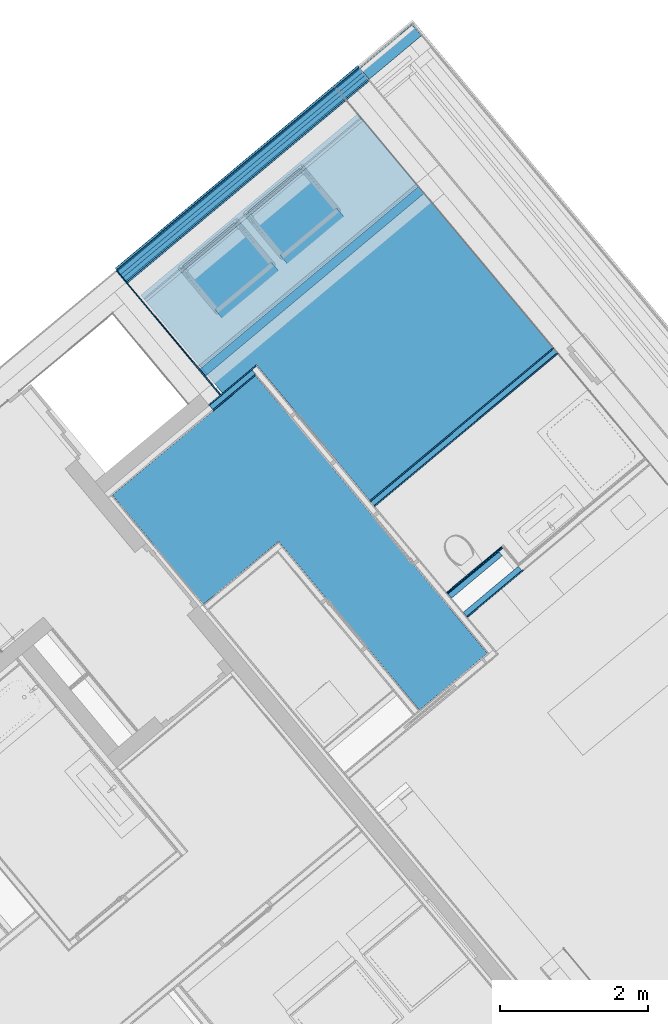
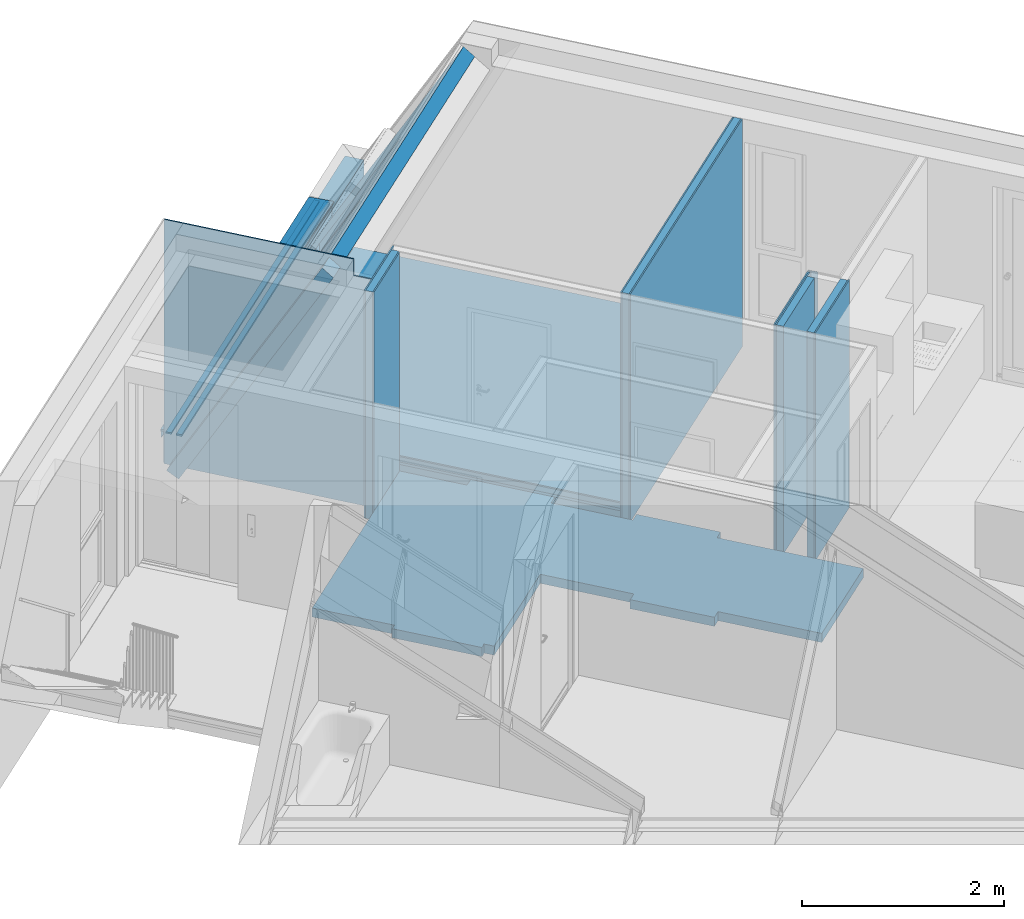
# One storey, part 37 of 61: 26 building element parts, 2 openings, 10 elements without a shape of their own.
"""IFC4 building model written with IfcOpenShell, lengths in metres."""

import ifcopenshell
import ifcopenshell.guid

model = None  # the IFC model being written
_history = None  # IfcOwnerHistory: only IFC2X3 demands one
_inside = {}  # id of a spatial element -> (the spatial element, [elements in it])
_under = {}  # id of a project, library or spatial element -> (it, [spatial elements below it])
_declared = {}  # id of a project -> (the project, [libraries it declares])
_typed = {}  # id of a type object -> (the type object, [elements of that type])
_made_of = {}  # id of a material, layer set ... -> (it, [elements and type objects made of it])


def new_model(schema):
    """Start an empty IFC model of exactly this schema.

    Asked for "IFC4X3", IfcOpenShell would pick the latest addendum, in which some entities
    have other attributes; the version numbers below select the first issue.
    IFC2X3 requires an IfcOwnerHistory on every rooted entity: one is made here for all.
    """
    global model, _history
    if schema == "IFC4X3":
        model = ifcopenshell.file(schema_version=(4, 3, 0, 0))
    else:
        model = ifcopenshell.file(schema=schema)
    _inside.clear()
    _under.clear()
    _declared.clear()
    _typed.clear()
    _made_of.clear()
    _history = None
    if model.schema == "IFC2X3":
        org = make("IfcOrganization", Name="unknown")
        user = make(
            "IfcPersonAndOrganization",
            ThePerson=make("IfcPerson", FamilyName="unknown"),
            TheOrganization=org,
        )
        app = make(
            "IfcApplication",
            ApplicationDeveloper=org,
            Version="unknown",
            ApplicationFullName="unknown",
            ApplicationIdentifier="unknown",
        )
        _history = make(
            "IfcOwnerHistory",
            OwningUser=user,
            OwningApplication=app,
            ChangeAction="ADDED",
            CreationDate=0,
        )
    return model


def make(cls, **values):
    """One entity of the class cls with the attributes given. An attribute that is None is left unset."""
    return model.create_entity(
        cls, **{name: value for name, value in values.items() if value is not None}
    )


def entity(cls, *values):
    """Any entity or typed value of the class cls, its attributes in the order of the schema. None: left unset."""
    e = model.create_entity(cls)
    for i, value in enumerate(values):
        if value is not None:
            e[i] = value
    return e


def rooted(cls, **values):
    """An entity with a GlobalId (a new one), such as an element, a storey or a relation."""
    return make(cls, GlobalId=ifcopenshell.guid.new(), OwnerHistory=_history, **values)


def si_unit(unit_type, name, prefix=None):
    """IfcSIUnit, for example si_unit("LENGTHUNIT", "METRE", prefix="MILLI")."""
    return make("IfcSIUnit", UnitType=unit_type, Prefix=prefix, Name=name)


def converted_unit(unit_type, name, factor, base, dimensions=None, offset=None):
    """IfcConversionBasedUnit, such as the inch: factor (a typed value) times the base unit."""
    return make(
        "IfcConversionBasedUnit"
        if offset is None
        else "IfcConversionBasedUnitWithOffset",
        ConversionOffset=offset,
        Dimensions=None
        if dimensions is None
        else entity("IfcDimensionalExponents", *dimensions),
        UnitType=unit_type,
        Name=name,
        ConversionFactor=make(
            "IfcMeasureWithUnit", ValueComponent=factor, UnitComponent=base
        ),
    )


def derived_unit(unit_type, elements):
    """IfcDerivedUnit: a product of units, each with its exponent."""
    return make(
        "IfcDerivedUnit",
        Elements=[
            make("IfcDerivedUnitElement", Unit=unit, Exponent=power)
            for unit, power in elements
        ],
        UnitType=unit_type,
    )


def assignment(units):
    """IfcUnitAssignment: the units of a project."""
    return None if units is None else make("IfcUnitAssignment", Units=units)


def point(xyz):
    """IfcCartesianPoint."""
    return None if xyz is None else make("IfcCartesianPoint", Coordinates=xyz)


def direction(xyz):
    """IfcDirection."""
    return None if xyz is None else make("IfcDirection", DirectionRatios=xyz)


def frame(location, z_axis=None, x_axis=None):
    """IfcAxis2Placement3D, a coordinate frame: its origin and axes. An axis left out is left unset."""
    return make(
        "IfcAxis2Placement3D",
        Location=point(location),
        Axis=direction(z_axis),
        RefDirection=direction(x_axis),
    )


def origin_with_axes():
    """The frame at (0, 0, 0) with the z axis (0, 0, 1) and the x axis (1, 0, 0) written out."""
    return frame((0.0, 0.0, 0.0), z_axis=(0.0, 0.0, 1.0), x_axis=(1.0, 0.0, 0.0))


def place(relative_to, where):
    """IfcLocalPlacement: puts the frame where relative to a parent placement (None: the world)."""
    return make(
        "IfcLocalPlacement", PlacementRelTo=relative_to, RelativePlacement=where
    )


def context(
    kind, dimensions, precision=None, world=None, true_north=None, identifier=None
):
    """IfcGeometricRepresentationContext, for example the 3D "Model" context."""
    return make(
        "IfcGeometricRepresentationContext",
        ContextIdentifier=identifier,
        ContextType=kind,
        CoordinateSpaceDimension=dimensions,
        Precision=precision,
        WorldCoordinateSystem=world,
        TrueNorth=true_north,
    )


def subcontext(parent, identifier, kind, view, scale=None):
    """IfcGeometricRepresentationSubContext, for example "Body" below "Model"."""
    return make(
        "IfcGeometricRepresentationSubContext",
        ContextIdentifier=identifier,
        ContextType=kind,
        ParentContext=parent,
        TargetScale=scale,
        TargetView=view,
    )


def project(units=None, contexts=None):
    """IfcProject with its units and contexts."""
    return rooted(
        "IfcProject",
        Name="project",
        RepresentationContexts=contexts,
        UnitsInContext=assignment(units),
    )


def spatial(cls, under=None, at=None, **own):
    """A site, building, storey or space (cls), placed at a placement, below another one or the project."""
    s = rooted(cls, ObjectPlacement=at, **own)
    if under is not None:
        _under.setdefault(under.id(), (under, []))[1].append(s)
    return s


def point_list(points):
    """IfcCartesianPointList2D or 3D."""
    cls = (
        "IfcCartesianPointList2D" if len(points[0]) == 2 else "IfcCartesianPointList3D"
    )
    return make(cls, CoordList=points)


def polygons(points, faces, closed=None, point_numbers=None):
    """IfcPolygonalFaceSet: a face is its outer loop, then its inner loops; points numbered from 1."""
    made = []
    for loops in faces:
        if len(loops) == 1:
            made.append(make("IfcIndexedPolygonalFace", CoordIndex=loops[0]))
        else:
            made.append(
                make(
                    "IfcIndexedPolygonalFaceWithVoids",
                    CoordIndex=loops[0],
                    InnerCoordIndices=loops[1:],
                )
            )
    return make(
        "IfcPolygonalFaceSet",
        Coordinates=point_list(points),
        Closed=closed,
        Faces=made,
        PnIndex=point_numbers,
    )


def shape(context_of_items, identifier, shape_type, items):
    """IfcShapeRepresentation: the items that make up one representation, for example the "Body"."""
    return make(
        "IfcShapeRepresentation",
        ContextOfItems=context_of_items,
        RepresentationIdentifier=identifier,
        RepresentationType=shape_type,
        Items=items,
    )


def material(Name=None, Category=None):
    """IfcMaterial."""
    return make("IfcMaterial", Name=Name, Category=Category)


def made_of(thing, what):
    """Note that an element or type object is made of a material, layer set ...; save() writes the relation."""
    if what is not None:
        _made_of.setdefault(what.id(), (what, []))[1].append(thing)
    return thing


def type_object(cls, material=None, **own):
    """A type object (cls), such as IfcWallType, which elements share."""
    return made_of(rooted(cls, **own), material)


def element(
    cls,
    number,
    at=None,
    inside=None,
    cuts=None,
    type_object=None,
    material=None,
    context=None,
    identifier="Body",
    shape_type=None,
    held_by="IfcProductDefinitionShape",
    body=None,
    shapes=None,
    **own,
):
    """One element of the class cls, such as IfcWall. Its Tag is "e" and its number.

    at: its placement. inside: the storey or other place that contains it. cuts: it is an
    opening in that element (IfcRelVoidsElement). A single representation is given by context,
    identifier, shape_type and body (its items); several are given by shapes. held_by: the class
    of the entity that holds the representations. save() writes the other relations.
    """
    e = rooted(cls, Tag="e%d" % number, ObjectPlacement=at, **own)
    if body is not None:
        shapes = [shape(context, identifier, shape_type, body)]
    if shapes is not None:
        e.Representation = make(held_by, Representations=shapes)
    if inside is not None:
        _inside.setdefault(inside.id(), (inside, []))[1].append(e)
    if cuts is not None:
        rooted(
            "IfcRelVoidsElement", RelatingBuildingElement=cuts, RelatedOpeningElement=e
        )
    if type_object is not None:
        _typed.setdefault(type_object.id(), (type_object, []))[1].append(e)
    return made_of(e, material)


def aggregate(whole, parts):
    """IfcRelAggregates: a whole, such as a stair, and the parts it consists of."""
    return rooted("IfcRelAggregates", RelatingObject=whole, RelatedObjects=parts)


def save(model, path):
    """Write the relations noted so far, then the file.

    IfcRelAggregates (storeys below a building ...), IfcRelContainedInSpatialStructure (elements
    in a storey), IfcRelDefinesByType, IfcRelAssociatesMaterial and IfcRelDeclares: one each for
    every whole, place, type object, material and project.
    """
    for whole, parts in _under.values():
        aggregate(whole, parts)
    for where, things in _inside.values():
        rooted(
            "IfcRelContainedInSpatialStructure",
            RelatedElements=things,
            RelatingStructure=where,
        )
    for kind, things in _typed.values():
        rooted("IfcRelDefinesByType", RelatedObjects=things, RelatingType=kind)
    for what, things in _made_of.values():
        rooted("IfcRelAssociatesMaterial", RelatedObjects=things, RelatingMaterial=what)
    for by, libraries in _declared.values():
        rooted("IfcRelDeclares", RelatingContext=by, RelatedDefinitions=libraries)
    model.write(path)


model = new_model("IFC4")

# Units and contexts
model_context = context("Model", 3, precision=1e-05, world=origin_with_axes(), true_north=direction((0.0, 1.0)))
body_context = subcontext(model_context, "Body", "Model", "MODEL_VIEW")
ifc_project = project(units=[si_unit("LENGTHUNIT", "METRE"), si_unit("AREAUNIT", "SQUARE_METRE"), si_unit("VOLUMEUNIT", "CUBIC_METRE"), converted_unit("PLANEANGLEUNIT", "DEGREE", entity("IfcPlaneAngleMeasure", 0.0174532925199), si_unit("PLANEANGLEUNIT", "RADIAN"), dimensions=[0, 0, 0, 0, 0, 0, 0]), converted_unit("TIMEUNIT", "Year", entity("IfcTimeMeasure", 31556926.0), si_unit("TIMEUNIT", "SECOND"), dimensions=[0, 0, 1, 0, 0, 0, 0]), si_unit("MASSUNIT", "GRAM", prefix="KILO"), si_unit("THERMODYNAMICTEMPERATUREUNIT", "DEGREE_CELSIUS"), si_unit("LUMINOUSINTENSITYUNIT", "LUMEN"), si_unit("ENERGYUNIT", "JOULE", prefix="MEGA"), derived_unit("THERMALCONDUCTANCEUNIT", [(si_unit("POWERUNIT", "WATT"), 1), (si_unit("LENGTHUNIT", "METRE"), -1), (si_unit("THERMODYNAMICTEMPERATUREUNIT", "KELVIN"), -1)]), derived_unit("SPECIFICHEATCAPACITYUNIT", [(si_unit("ENERGYUNIT", "JOULE"), 1), (si_unit("MASSUNIT", "GRAM", prefix="KILO"), -1), (si_unit("THERMODYNAMICTEMPERATUREUNIT", "KELVIN"), -1)]), derived_unit("MASSDENSITYUNIT", [(si_unit("MASSUNIT", "GRAM", prefix="KILO"), 1), (si_unit("VOLUMEUNIT", "CUBIC_METRE"), -1)])], contexts=[model_context])

# Site, building, storey
site_placement = place(None, frame((-0.00153261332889, -0.00661245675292, 0.0), z_axis=(0.0, 0.0, 1.0), x_axis=(1.0, 0.0, 0.0)))
site = spatial("IfcSite", under=ifc_project, at=site_placement, Name="Gelände", CompositionType="ELEMENT")
building_placement = place(site_placement, origin_with_axes())
building = spatial("IfcBuilding", under=site, at=building_placement, Name="Gebäude", CompositionType="ELEMENT")
storey_placement = place(building_placement, frame((0.0, 0.0, 5.7), z_axis=(0.0, 0.0, 1.0), x_axis=(1.0, 0.0, 0.0)))
storey = spatial("IfcBuildingStorey", under=building, at=storey_placement, Name="DG1", CompositionType="ELEMENT", Elevation=5.7)

# Wall, building element parts
wall_type_1 = type_object("IfcWallType", Name="IW LB 01 Leichtbautrennwand einfach 10,5 cm 105", PredefinedType="NOTDEFINED")
wall_1_placement = place(storey_placement, frame((2.9014331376, 25.8298809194, 0.0), z_axis=(0.0, 0.0, 1.0), x_axis=(0.767354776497, 0.641222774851, 0.0)))
wall_1 = element("IfcWall", 1, at=wall_1_placement, inside=storey, type_object=wall_type_1, Name="Wand-012", PredefinedType="NOTDEFINED")
ifc_material_1 = material(Name="Gipskarton")
building_element_part_1_placement = place(wall_1_placement, origin_with_axes())
building_element_part_1 = element("IfcBuildingElementPart", 2, at=building_element_part_1_placement, material=ifc_material_1, Name="Gipskarton", PredefinedType="NOTDEFINED", context=body_context, shape_type="Tessellation", body=[
    polygons([(0.82844383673, 0.0, 2.76), (0.0, 0.0, 2.76), (0.0, -0.015, 2.76), (0.828443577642, -0.015, 2.76), (0.82844383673, 0.0, 0.0), (0.0, 0.0, 0.0), (0.0, -0.015, 0.0), (0.828443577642, -0.015, 0.0)], [[[1, 2, 3, 4]], [[5, 6, 2, 1]], [[3, 2, 6, 7]], [[4, 3, 7, 8]], [[4, 8, 5, 1]], [[8, 7, 6, 5]]], closed=True),
])
ifc_material_2 = material(Name="Mineralwolle weich")
building_element_part_2_placement = place(wall_1_placement, origin_with_axes())
building_element_part_2 = element("IfcBuildingElementPart", 3, at=building_element_part_2_placement, material=ifc_material_2, Name="Mineralwolle weich", PredefinedType="NOTDEFINED", context=body_context, shape_type="Tessellation", body=[
    polygons([(0.753443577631, -0.015, 2.76), (0.0, -0.015, 2.76), (0.0, -0.09, 2.76), (0.753442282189, -0.09, 2.76), (0.753443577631, -0.015, 0.0), (0.0, -0.015, 0.0), (0.0, -0.09, 0.0), (0.753442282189, -0.09, 0.0)], [[[1, 2, 3, 4]], [[5, 6, 2, 1]], [[3, 2, 6, 7]], [[4, 3, 7, 8]], [[4, 8, 5, 1]], [[8, 7, 6, 5]]], closed=True),
])
building_element_part_3_placement = place(wall_1_placement, origin_with_axes())
building_element_part_3 = element("IfcBuildingElementPart", 4, at=building_element_part_3_placement, material=ifc_material_1, Name="Gipskarton", PredefinedType="NOTDEFINED", context=body_context, shape_type="Tessellation", body=[
    polygons([(0.738442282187, -0.09, 2.76), (0.0, -0.09, 2.76), (0.0, -0.105, 2.76), (0.738442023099, -0.105, 2.76), (0.738442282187, -0.09, 0.0), (0.0, -0.09, 0.0), (0.0, -0.105, 0.0), (0.738442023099, -0.105, 0.0)], [[[1, 2, 3, 4]], [[5, 6, 2, 1]], [[3, 2, 6, 7]], [[4, 3, 7, 8]], [[4, 8, 5, 1]], [[8, 7, 6, 5]]], closed=True),
])
aggregate(wall_1, [building_element_part_1, building_element_part_2, building_element_part_3])

wall_2_placement = place(storey_placement, frame((5.08746071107, 24.5291530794, 0.0), z_axis=(0.0, 0.0, 1.0), x_axis=(0.767365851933, 0.641209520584, 0.0)))
wall_2 = element("IfcWall", 5, at=wall_2_placement, inside=storey, type_object=wall_type_1, Name="Wand-012", PredefinedType="NOTDEFINED")
building_element_part_4_placement = place(wall_2_placement, origin_with_axes())
building_element_part_4 = element("IfcBuildingElementPart", 6, at=building_element_part_4_placement, material=ifc_material_1, Name="Gipskarton", PredefinedType="NOTDEFINED", context=body_context, shape_type="Tessellation", body=[
    polygons([(3.23167648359, -0.015, 2.76), (3.23167648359, 0.0, 2.76), (0.0, 0.0, 2.76), (0.0, -0.015, 2.76), (3.23167648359, -0.015, 0.0), (3.23167648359, 0.0, 0.0), (0.0, 0.0, 0.0), (0.0, -0.015, 0.0)], [[[1, 2, 3, 4]], [[2, 1, 5, 6]], [[2, 6, 7, 3]], [[8, 4, 3, 7]], [[5, 1, 4, 8]], [[6, 5, 8, 7]]], closed=True),
])
building_element_part_5_placement = place(wall_2_placement, origin_with_axes())
building_element_part_5 = element("IfcBuildingElementPart", 7, at=building_element_part_5_placement, material=ifc_material_2, Name="Mineralwolle weich", PredefinedType="NOTDEFINED", context=body_context, shape_type="Tessellation", body=[
    polygons([(3.23167648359, -0.09, 2.76), (3.23167648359, -0.015, 2.76), (0.0, -0.015, 2.76), (0.0, -0.09, 2.76), (3.23167648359, -0.09, 0.0), (3.23167648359, -0.015, 0.0), (0.0, -0.015, 0.0), (0.0, -0.09, 0.0)], [[[1, 2, 3, 4]], [[2, 1, 5, 6]], [[2, 6, 7, 3]], [[8, 4, 3, 7]], [[5, 1, 4, 8]], [[6, 5, 8, 7]]], closed=True),
])
building_element_part_6_placement = place(wall_2_placement, origin_with_axes())
building_element_part_6 = element("IfcBuildingElementPart", 8, at=building_element_part_6_placement, material=ifc_material_1, Name="Gipskarton", PredefinedType="NOTDEFINED", context=body_context, shape_type="Tessellation", body=[
    polygons([(3.23167648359, -0.105, 2.76), (3.23167648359, -0.09, 2.76), (0.0, -0.09, 2.76), (0.0, -0.105, 2.76), (3.23167648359, -0.105, 0.0), (3.23167648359, -0.09, 0.0), (0.0, -0.09, 0.0), (0.0, -0.105, 0.0)], [[[1, 2, 3, 4]], [[2, 1, 5, 6]], [[2, 6, 7, 3]], [[8, 4, 3, 7]], [[5, 1, 4, 8]], [[6, 5, 8, 7]]], closed=True),
])
aggregate(wall_2, [building_element_part_4, building_element_part_5, building_element_part_6])

wall_type_2 = type_object("IfcWallType", Name="LB 9,0 cm einfache Vorsatzschale  90", PredefinedType="NOTDEFINED")
wall_3_placement = place(storey_placement, frame((6.35108165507, 23.0169179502, 0.0), z_axis=(0.0, 0.0, 1.0), x_axis=(0.767365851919, 0.641209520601, 0.0)))
wall_3 = element("IfcWall", 9, at=wall_3_placement, inside=storey, type_object=wall_type_2, Name="Wand-006", PredefinedType="NOTDEFINED")
building_element_part_7_placement = place(wall_3_placement, origin_with_axes())
building_element_part_7 = element("IfcBuildingElementPart", 10, at=building_element_part_7_placement, material=ifc_material_2, Name="Mineralwolle weich", PredefinedType="NOTDEFINED", context=body_context, shape_type="Tessellation", body=[
    polygons([(0.971380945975, 0.0, 2.76), (0.0, 0.0, 2.76), (0.0, -0.075, 2.76), (0.971201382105, -0.075, 2.76), (0.971380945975, 0.0, 0.0), (0.0, 0.0, 0.0), (0.0, -0.075, 0.0), (0.971201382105, -0.075, 0.0)], [[[1, 2, 3, 4]], [[5, 6, 2, 1]], [[3, 2, 6, 7]], [[4, 3, 7, 8]], [[4, 8, 5, 1]], [[8, 7, 6, 5]]], closed=True),
])
building_element_part_8_placement = place(wall_3_placement, origin_with_axes())
building_element_part_8 = element("IfcBuildingElementPart", 11, at=building_element_part_8_placement, material=ifc_material_1, Name="Gipskarton", PredefinedType="NOTDEFINED", context=body_context, shape_type="Tessellation", body=[
    polygons([(0.986201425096, -0.075, 2.76), (0.0, -0.075, 2.76), (0.0, -0.09, 2.76), (0.986165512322, -0.09, 2.76), (0.986201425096, -0.075, 0.0), (0.0, -0.075, 0.0), (0.0, -0.09, 0.0), (0.986165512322, -0.09, 0.0)], [[[1, 2, 3, 4]], [[5, 6, 2, 1]], [[3, 2, 6, 7]], [[4, 3, 7, 8]], [[4, 8, 5, 1]], [[8, 7, 6, 5]]], closed=True),
])
aggregate(wall_3, [building_element_part_7, building_element_part_8])

wall_type_3 = type_object("IfcWallType", Name="LB 10,5 cm doppelte Vorsatzschale Bad 105", PredefinedType="NOTDEFINED")
wall_4_placement = place(storey_placement, frame((6.19191495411, 23.207400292, 0.0), z_axis=(0.0, 0.0, 1.0), x_axis=(0.767365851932, 0.641209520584, 0.0)))
wall_4 = element("IfcWall", 12, at=wall_4_placement, inside=storey, type_object=wall_type_3, Name="Wand-004", PredefinedType="NOTDEFINED")
building_element_part_9_placement = place(wall_4_placement, origin_with_axes())
building_element_part_9 = element("IfcBuildingElementPart", 13, at=building_element_part_9_placement, material=ifc_material_1, Name="Gipskarton", PredefinedType="NOTDEFINED", context=body_context, shape_type="Tessellation", body=[
    polygons([(1.00222642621, 0.10487431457, 0.0), (1.00222642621, 0.09, 0.0), (1.00219081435, 0.09, 0.0), (1.00222642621, 0.10487431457, 2.76), (1.00222642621, 0.09, 2.76), (1.00219081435, 0.09, 2.76)], [[[1, 2, 3]], [[4, 5, 2, 1]], [[2, 5, 6, 3]], [[1, 3, 6, 4]], [[5, 4, 6]]], closed=True),
    polygons([(0.972190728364, 0.09, 0.0), (0.0, 0.09, 0.0), (0.0, 0.105, 0.0), (0.972226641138, 0.105, 0.0), (0.972190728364, 0.09, 2.76), (0.0, 0.09, 2.76), (0.0, 0.105, 2.76), (0.972226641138, 0.105, 2.76)], [[[1, 2, 3, 4]], [[5, 6, 2, 1]], [[3, 2, 6, 7]], [[4, 3, 7, 8]], [[4, 8, 5, 1]], [[8, 7, 6, 5]]], closed=True),
])
building_element_part_10_placement = place(wall_4_placement, origin_with_axes())
building_element_part_10 = element("IfcBuildingElementPart", 14, at=building_element_part_10_placement, material=ifc_material_1, Name="Gipskarton", PredefinedType="NOTDEFINED", context=body_context, shape_type="Tessellation", body=[
    polygons([(1.00222642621, 0.09, 0.0), (1.00222642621, 0.075, 0.0), (1.00215490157, 0.075, 0.0), (1.00219081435, 0.09, 0.0), (1.00222642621, 0.09, 2.76), (1.00222642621, 0.075, 2.76), (1.00215490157, 0.075, 2.76), (1.00219081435, 0.09, 2.76)], [[[1, 2, 3, 4]], [[1, 5, 6, 2]], [[2, 6, 7, 3]], [[4, 3, 7, 8]], [[5, 1, 4, 8]], [[6, 5, 8, 7]]], closed=True),
    polygons([(0.97215481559, 0.075, 0.0), (0.0, 0.075, 0.0), (0.0, 0.09, 0.0), (0.972190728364, 0.09, 0.0), (0.97215481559, 0.075, 2.76), (0.0, 0.075, 2.76), (0.0, 0.09, 2.76), (0.972190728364, 0.09, 2.76)], [[[1, 2, 3, 4]], [[5, 6, 2, 1]], [[3, 2, 6, 7]], [[4, 3, 7, 8]], [[4, 8, 5, 1]], [[8, 7, 6, 5]]], closed=True),
])
building_element_part_11_placement = place(wall_4_placement, origin_with_axes())
building_element_part_11 = element("IfcBuildingElementPart", 15, at=building_element_part_11_placement, material=ifc_material_2, Name="Mineralwolle weich", PredefinedType="NOTDEFINED", context=body_context, shape_type="Tessellation", body=[
    polygons([(1.00197533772, 0.0, 0.22), (1.00222642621, 0.0, 0.22), (1.00222642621, 0.0, 2.76), (1.0019753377, 0.0, 2.76), (1.00222642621, 0.075, 0.22), (1.00215490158, 0.075, 0.22), (1.00222642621, 0.075, 2.76), (1.00215490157, 0.075, 2.76)], [[[1, 2, 3, 4]], [[5, 2, 1, 6]], [[2, 5, 7, 3]], [[4, 3, 7, 8]], [[6, 1, 4, 8]], [[5, 6, 8, 7]]], closed=True),
    polygons([(0.897154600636, 0.075, 0.0), (0.896975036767, 0.0, 0.0), (0.0, 0.0, 0.0), (0.0, 0.075, 0.0), (0.897154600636, 0.075, 2.76), (0.896975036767, 0.0, 2.76), (0.0, 0.0, 2.76), (0.0, 0.075, 2.76)], [[[1, 2, 3, 4]], [[2, 1, 5, 6]], [[2, 6, 7, 3]], [[8, 4, 3, 7]], [[5, 1, 4, 8]], [[6, 5, 8, 7]]], closed=True),
])
aggregate(wall_4, [building_element_part_9, building_element_part_10, building_element_part_11])

# Space
space_placement = place(storey_placement, frame((2.62932542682, 25.8435926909, 0.0), z_axis=(0.0, 0.0, 1.0), x_axis=(-0.641209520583, 0.767365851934, 0.0)))
space = spatial("IfcSpace", under=storey, at=space_placement, CompositionType="ELEMENT", PredefinedType="NOTDEFINED")

# Wall, building element part
wall_type_4 = type_object("IfcWallType", Name="AW EG 420", PredefinedType="NOTDEFINED")
wall_5_placement = place(space_placement, frame((2.84223588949e-05, 0.00499999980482, 0.0), z_axis=(0.0, 0.0, 1.0), x_axis=(1.0, 0.0, 0.0)))
wall_5 = element("IfcWall", 16, at=wall_5_placement, inside=space, type_object=wall_type_4, Name="Wand-003", PredefinedType="NOTDEFINED")
ifc_material_3 = material(Name="Zementputz")
building_element_part_12_placement = place(wall_5_placement, origin_with_axes())
building_element_part_12 = element("IfcBuildingElementPart", 17, at=building_element_part_12_placement, material=ifc_material_3, Name="Zementputz", PredefinedType="NOTDEFINED", context=body_context, shape_type="Tessellation", body=[
    polygons([(2.0011158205, -0.42, 2.95999999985), (0.0, -0.42, 2.95999999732), (0.0, -0.42, 2.76), (-0.19999274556, -0.42, 2.76), (-0.19999274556, -0.42, 0.0), (2.0011158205, -0.42, 0.0), (2.0011158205, -0.404999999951, 2.95999999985), (0.0, -0.404999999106, 2.95999999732), (0.0, -0.404999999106, 2.76), (-0.199993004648, -0.404999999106, 2.76), (-0.199993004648, -0.405, 0.0), (2.0011158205, -0.405, 0.0)], [[[1, 2, 3, 4, 5, 6]], [[7, 8, 2, 1]], [[9, 3, 2, 8]], [[9, 10, 4, 3]], [[5, 4, 10, 11]], [[6, 5, 11, 12]], [[1, 6, 12, 7]], [[10, 9, 8, 7, 12, 11]]], closed=True),
])
aggregate(wall_5, [building_element_part_12])

# Covering, building element parts
covering_type_1 = type_object("IfcCoveringType", Name="DE 01 Decke Wohnung/Wohnung Parkett 220", PredefinedType="NOTDEFINED")
covering_1_placement = place(storey_placement, frame((1.94716383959, 27.3536100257, 0.22), z_axis=(0.0, 0.0, 1.0), x_axis=(1.0, 0.0, 0.0)))
covering_1 = element("IfcCovering", 18, at=covering_1_placement, inside=storey, type_object=covering_type_1, Name="Decke-005", PredefinedType="NOTDEFINED")
ifc_material_4 = material(Name="Parkett")
building_element_part_13_placement = place(covering_1_placement, origin_with_axes())
building_element_part_13 = element("IfcBuildingElementPart", 19, at=building_element_part_13_placement, material=ifc_material_4, Name="Parkett", PredefinedType="NOTDEFINED", context=body_context, shape_type="Tessellation", body=[
    polygons([(3.04944038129, 2.3242449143, -0.015), (3.05499341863, 2.31759933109, 0.0), (5.62017504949, -0.752275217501, 0.0), (5.62017504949, -0.752275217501, -0.015), (0.115702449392, -0.138466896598, 0.0), (0.110149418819, -0.131821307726, -0.015), (1.14208254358, -1.36678718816, 0.0), (1.60148856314, -0.982894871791, 0.0), (3.14029687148, -2.82445694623, 0.0), (3.14029687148, -2.82445694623, -0.015), (1.60148856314, -0.982894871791, -0.015), (1.14208254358, -1.36678718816, -0.015)], [[[1, 2, 3, 4]], [[5, 2, 1, 6]], [[2, 5, 7, 8, 9, 3]], [[9, 10, 4, 3]], [[6, 1, 4, 10, 11, 12]], [[5, 6, 12, 7]], [[7, 12, 11, 8]], [[8, 11, 10, 9]]], closed=True),
])
ifc_material_5 = material(Name="Estrich")
building_element_part_14_placement = place(covering_1_placement, origin_with_axes())
building_element_part_14 = element("IfcBuildingElementPart", 20, at=building_element_part_14_placement, material=ifc_material_5, Name="Estrich", PredefinedType="NOTDEFINED", context=body_context, shape_type="Tessellation", body=[
    polygons([(3.02537721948, 2.35304244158, -0.08), (3.04944038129, 2.3242449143, -0.015), (5.62017504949, -0.752275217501, -0.015), (5.62017504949, -0.752275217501, -0.08), (0.110149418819, -0.131821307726, -0.015), (0.0860862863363, -0.103023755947, -0.08), (1.14208254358, -1.36678718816, -0.015), (1.60148856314, -0.982894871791, -0.015), (3.14029687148, -2.82445694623, -0.015), (3.14029687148, -2.82445694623, -0.08), (1.60148856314, -0.982894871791, -0.08), (1.14208254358, -1.36678718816, -0.08)], [[[1, 2, 3, 4]], [[5, 2, 1, 6]], [[2, 5, 7, 8, 9, 3]], [[9, 10, 4, 3]], [[6, 1, 4, 10, 11, 12]], [[5, 6, 12, 7]], [[7, 12, 11, 8]], [[8, 11, 10, 9]]], closed=True),
])
ifc_material_6 = material(Name="Trittschalldämmung")
building_element_part_15_placement = place(covering_1_placement, origin_with_axes())
building_element_part_15 = element("IfcBuildingElementPart", 21, at=building_element_part_15_placement, material=ifc_material_6, Name="Trittschalldämmung", PredefinedType="NOTDEFINED", context=body_context, shape_type="Tessellation", body=[
    polygons([(3.0142711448, 2.36633360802, -0.11), (3.02537721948, 2.35304244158, -0.08), (5.62017504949, -0.752275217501, -0.08), (5.62017504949, -0.752275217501, -0.11), (0.0860862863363, -0.103023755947, -0.08), (0.0749802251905, -0.089732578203, -0.11), (1.14208254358, -1.36678718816, -0.08), (1.60148856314, -0.982894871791, -0.08), (3.14029687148, -2.82445694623, -0.08), (3.14029687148, -2.82445694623, -0.11), (1.60148856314, -0.982894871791, -0.11), (1.14208254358, -1.36678718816, -0.11)], [[[1, 2, 3, 4]], [[5, 2, 1, 6]], [[2, 5, 7, 8, 9, 3]], [[9, 10, 4, 3]], [[6, 1, 4, 10, 11, 12]], [[5, 6, 12, 7]], [[7, 12, 11, 8]], [[8, 11, 10, 9]]], closed=True),
])
ifc_material_7 = material(Name="Schüttung")
building_element_part_16_placement = place(covering_1_placement, origin_with_axes())
building_element_part_16 = element("IfcBuildingElementPart", 22, at=building_element_part_16_placement, material=ifc_material_7, Name="Schüttung", PredefinedType="NOTDEFINED", context=body_context, shape_type="Tessellation", body=[
    polygons([(2.97354887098, 2.41506788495, -0.22), (3.0142711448, 2.36633360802, -0.11), (5.62017504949, -0.752275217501, -0.11), (5.62017504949, -0.752275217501, -0.22), (0.0749802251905, -0.089732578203, -0.11), (0.034258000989, -0.040998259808, -0.22), (1.14208254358, -1.36678718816, -0.11), (1.60148856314, -0.982894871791, -0.11), (3.14029687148, -2.82445694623, -0.11), (3.14029687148, -2.82445694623, -0.22), (1.60148856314, -0.982894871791, -0.22), (1.14208254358, -1.36678718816, -0.22)], [[[1, 2, 3, 4]], [[5, 2, 1, 6]], [[2, 5, 7, 8, 9, 3]], [[3, 9, 10, 4]], [[6, 1, 4, 10, 11, 12]], [[5, 6, 12, 7]], [[8, 7, 12, 11]], [[9, 8, 11, 10]]], closed=True),
])
aggregate(covering_1, [building_element_part_13, building_element_part_14, building_element_part_15, building_element_part_16])

# Covering, building element part
covering_type_2 = type_object("IfcCoveringType", Name="DE 01 Decke Wohnung/Wohnung Fließen 220", PredefinedType="NOTDEFINED")
covering_2_placement = place(storey_placement, frame((3.53540854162, 26.2228144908, 0.22), z_axis=(0.0, 0.0, 1.0), x_axis=(1.0, 0.0, 0.0)))
covering_2 = element("IfcCovering", 23, at=covering_2_placement, inside=storey, type_object=covering_type_2, Name="Decke-001", PredefinedType="NOTDEFINED")
building_element_part_17_placement = place(covering_2_placement, origin_with_axes())
building_element_part_17 = element("IfcBuildingElementPart", 24, at=building_element_part_17_placement, material=ifc_material_7, Name="Schüttung", PredefinedType="NOTDEFINED", context=body_context, shape_type="Tessellation", body=[
    polygons([(-1.42889265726, -2.32641105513, -0.11), (-0.819789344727, -3.0554469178, -0.11), (-0.781988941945, -3.02389139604, -0.11), (-0.784605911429, -3.02075965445, -0.11), (-0.773095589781, -3.01114131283, -0.11), (-0.702366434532, -3.09578327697, -0.11), (0.314352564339, -2.24621466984, -0.11), (0.948949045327, -3.00566633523, -0.11), (0.86837563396, -3.07299338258, -0.11), (1.43905209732, -3.75594898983, -0.11), (1.5196247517, -3.68862254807, -0.11), (2.22264850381, -4.52996639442, -0.11), (3.1432594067, -3.76168765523, -0.11), (2.15130708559, -2.57457127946, -0.11), (2.23188049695, -2.50724423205, -0.11), (1.66120403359, -1.8242886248, -0.11), (1.58063062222, -1.89161567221, -0.11), (1.02722238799, -1.22932570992, -0.11), (1.10779579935, -1.16199873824, -0.11), (0.53711933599, -0.479043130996, -0.11), (0.456545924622, -0.546370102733, -0.11), (0.0, 0.0, -0.11), (-1.93684258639, -1.61847896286, -0.11), (-1.38225722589, -2.28215427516, -0.11), (-1.38261755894, -2.28245537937, -0.11), (-1.37999762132, -2.28559380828, -0.11), (-0.819789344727, -3.0554469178, -0.22), (-1.42889265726, -2.32641105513, -0.22), (-0.781988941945, -3.02389139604, -0.22), (-0.784605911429, -3.02075965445, -0.22), (-0.773095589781, -3.01114131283, -0.22), (-0.702366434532, -3.09578327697, -0.22), (0.314352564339, -2.24621466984, -0.22), (0.948949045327, -3.00566633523, -0.22), (0.86837563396, -3.07299338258, -0.22), (1.43905209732, -3.75594898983, -0.22), (1.5196247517, -3.68862254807, -0.22), (2.22264850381, -4.52996639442, -0.22), (3.1432594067, -3.76168765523, -0.22), (2.15130708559, -2.57457127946, -0.22), (2.23188049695, -2.50724423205, -0.22), (1.66120403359, -1.8242886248, -0.22), (1.58063062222, -1.89161567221, -0.22), (1.02722238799, -1.22932570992, -0.22), (1.10779579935, -1.16199873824, -0.22), (0.53711933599, -0.479043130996, -0.22), (0.456545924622, -0.546370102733, -0.22), (0.0, 0.0, -0.22), (-1.93684258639, -1.61847896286, -0.22), (-1.38225722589, -2.28215427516, -0.22), (-1.38261755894, -2.28245537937, -0.22), (-1.37999762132, -2.28559380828, -0.22)], [[[1, 2, 3, 4, 5, 6, 7, 8, 9, 10, 11, 12, 13, 14, 15, 16, 17, 18, 19, 20, 21, 22, 23, 24, 25, 26]], [[27, 2, 1, 28]], [[2, 27, 29, 3]], [[4, 3, 29, 30]], [[5, 4, 30, 31]], [[32, 6, 5, 31]], [[6, 32, 33, 7]], [[7, 33, 34, 8]], [[8, 34, 35, 9]], [[9, 35, 36, 10]], [[10, 36, 37, 11]], [[11, 37, 38, 12]], [[12, 38, 39, 13]], [[13, 39, 40, 14]], [[14, 40, 41, 15]], [[15, 41, 42, 16]], [[16, 42, 43, 17]], [[17, 43, 44, 18]], [[18, 44, 45, 19]], [[19, 45, 46, 20]], [[20, 46, 47, 21]], [[21, 47, 48, 22]], [[49, 23, 22, 48]], [[24, 23, 49, 50]], [[25, 24, 50, 51]], [[25, 51, 52, 26]], [[28, 1, 26, 52]], [[27, 28, 52, 51, 50, 49, 48, 47, 46, 45, 44, 43, 42, 41, 40, 39, 38, 37, 36, 35, 34, 33, 32, 31, 30, 29]]], closed=True),
])
aggregate(covering_2, [building_element_part_17])

# Wall, building element parts
wall_type_5 = type_object("IfcWallType", Name="Bauteil - Attika Abschluss wand 264 x 407", PredefinedType="NOTDEFINED")
wall_6_placement = place(storey_placement, frame((5.07730260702, 30.2362960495, -0.2), z_axis=(0.0, 0.0, 1.0), x_axis=(-0.767365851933, -0.641209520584, 0.0)))
wall_6 = element("IfcWall", 25, at=wall_6_placement, inside=storey, type_object=wall_type_5, Name="Wand-002", PredefinedType="NOTDEFINED")
ifc_material_8 = material(Name="Vollholz")
building_element_part_18_placement = place(wall_6_placement, origin_with_axes())
building_element_part_18 = element("IfcBuildingElementPart", 26, at=building_element_part_18_placement, material=ifc_material_8, Name="Vollholz", PredefinedType="NOTDEFINED", context=body_context, shape_type="Tessellation", body=[
    polygons([(4.2801343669, -0.0789260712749, 0.582657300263), (4.2801343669, -0.019237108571, 0.584512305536), (0.0, -0.019237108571, 0.584512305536), (0.0, -0.0789260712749, 0.582657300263), (4.2801343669, -0.07914848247, 0.560000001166), (4.2801343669, -0.01914848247, 0.560000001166), (0.0, -0.01914848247, 0.560000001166), (0.0, -0.07914848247, 0.560000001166)], [[[1, 2, 3, 4]], [[1, 5, 6, 2]], [[2, 6, 7, 3]], [[4, 3, 7, 8]], [[5, 1, 4, 8]], [[6, 5, 8, 7]]], closed=True),
])
ifc_material_9 = material(Name="EPS 1")
building_element_part_19_placement = place(wall_6_placement, origin_with_axes())
building_element_part_19 = element("IfcBuildingElementPart", 27, at=building_element_part_19_placement, material=ifc_material_9, Name="EPS 1", PredefinedType="NOTDEFINED", context=body_context, shape_type="Tessellation", body=[
    polygons([(4.2801343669, -2.39911202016e-10, 0.499999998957), (4.2801343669, -2.39911202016e-10, 0.2), (0.0, -2.39911202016e-10, 0.2), (0.0, -2.39911202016e-10, 0.499999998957), (4.2801343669, -0.19999996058, 0.499999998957), (4.2801343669, -0.19999996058, 0.2), (0.0, -0.19999996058, 0.2), (0.0, -0.19999996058, 0.499999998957)], [[[1, 2, 3, 4]], [[1, 5, 6, 2]], [[2, 6, 7, 3]], [[4, 3, 7, 8]], [[5, 1, 4, 8]], [[6, 5, 8, 7]]], closed=True),
])
ifc_material_10 = material(Name="Brettschichtholz")
building_element_part_20_placement = place(wall_6_placement, origin_with_axes())
building_element_part_20 = element("IfcBuildingElementPart", 28, at=building_element_part_20_placement, material=ifc_material_10, Name="Brettschichtholz", PredefinedType="NOTDEFINED", context=body_context, shape_type="Tessellation", body=[
    polygons([(4.2801343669, -0.13012497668, 0.560000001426), (4.2801343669, -0.0791484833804, 0.560000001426), (0.0, -0.0791484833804, 0.560000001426), (0.0, -0.13012497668, 0.560000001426), (4.2801343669, -0.190124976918, 0.560000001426), (4.2801343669, -0.214999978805, 0.560000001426), (4.2801343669, -0.214999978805, 0.500000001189), (4.2801343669, 2.3777211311e-09, 0.500000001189), (4.2801343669, 2.3777211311e-09, 0.560000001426), (4.2801343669, -0.0191484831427, 0.560000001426), (0.0, -0.0191484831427, 0.560000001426), (0.0, 2.37772468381e-09, 0.560000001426), (0.0, 2.37772468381e-09, 0.500000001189), (0.0, -0.214999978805, 0.500000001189), (0.0, -0.214999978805, 0.560000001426), (0.0, -0.190124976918, 0.560000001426)], [[[1, 2, 3, 4]], [[1, 5, 6, 7, 8, 9, 10, 2]], [[2, 10, 11, 3]], [[4, 3, 11, 12, 13, 14, 15, 16]], [[5, 1, 4, 16]], [[6, 5, 16, 15]], [[7, 6, 15, 14]], [[8, 7, 14, 13]], [[9, 8, 13, 12]], [[10, 9, 12, 11]]], closed=True),
])
building_element_part_21_placement = place(wall_6_placement, origin_with_axes())
building_element_part_21 = element("IfcBuildingElementPart", 29, at=building_element_part_21_placement, material=ifc_material_8, Name="Vollholz", PredefinedType="NOTDEFINED", context=body_context, shape_type="Tessellation", body=[
    polygons([(4.2801343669, -0.19002193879, 0.57920467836), (4.2801343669, -0.130124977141, 0.581066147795), (0.0, -0.130124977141, 0.581066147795), (0.0, -0.19002193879, 0.57920467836), (4.2801343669, -0.190124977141, 0.560000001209), (4.2801343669, -0.130124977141, 0.560000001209), (0.0, -0.130124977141, 0.560000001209), (0.0, -0.190124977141, 0.560000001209)], [[[1, 2, 3, 4]], [[1, 5, 6, 2]], [[2, 6, 7, 3]], [[4, 3, 7, 8]], [[5, 1, 4, 8]], [[6, 5, 8, 7]]], closed=True),
])
building_element_part_22_placement = place(wall_6_placement, origin_with_axes())
building_element_part_22 = element("IfcBuildingElementPart", 30, at=building_element_part_22_placement, material=ifc_material_3, Name="Zementputz", PredefinedType="NOTDEFINED", context=body_context, shape_type="Tessellation", body=[
    polygons([(4.2801343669, -0.199999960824, 0.2), (4.2801343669, -0.214999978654, 0.2), (0.0, -0.214999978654, 0.2), (0.0, -0.199999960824, 0.2), (4.2801343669, -0.199999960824, 0.499999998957), (4.2801343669, -0.214999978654, 0.499999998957), (0.0, -0.214999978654, 0.499999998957), (0.0, -0.199999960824, 0.499999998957)], [[[1, 2, 3, 4]], [[1, 5, 6, 2]], [[2, 6, 7, 3]], [[4, 3, 7, 8]], [[5, 1, 4, 8]], [[6, 5, 8, 7]]], closed=True),
])
ifc_material_11 = material(Name="Stahl")
building_element_part_23_placement = place(wall_6_placement, origin_with_axes())
building_element_part_23 = element("IfcBuildingElementPart", 31, at=building_element_part_23_placement, material=ifc_material_11, Name="Stahl", PredefinedType="NOTDEFINED", context=body_context, shape_type="Tessellation", body=[
    polygons([(4.2801343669, -0.244007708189, 0.59962516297), (4.2801343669, 0.0197167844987, 0.607483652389), (0.0, 0.0197167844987, 0.607483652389), (0.0, -0.244007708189, 0.59962516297), (4.2801343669, -0.237415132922, 0.499843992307), (4.2801343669, -0.236396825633, 0.498951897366), (4.2801343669, -0.22785172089, 0.508706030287), (4.2801343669, -0.228826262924, 0.509648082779), (4.2801343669, -0.236153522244, 0.501284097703), (4.2801343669, -0.242570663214, 0.598313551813), (4.2801343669, -0.241694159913, 0.598339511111), (4.2801343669, 0.0197570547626, 0.606129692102), (0.0, 0.0197570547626, 0.606129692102), (0.0, -0.241694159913, 0.598339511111), (0.0, -0.242570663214, 0.598313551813), (0.0, -0.236153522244, 0.501284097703), (0.0, -0.228826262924, 0.509648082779), (0.0, -0.22785172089, 0.508706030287), (0.0, -0.236396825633, 0.498951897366), (0.0, -0.237415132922, 0.499843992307)], [[[1, 2, 3, 4]], [[1, 5, 6, 7, 8, 9, 10, 11, 12, 2]], [[2, 12, 13, 3]], [[4, 3, 13, 14, 15, 16, 17, 18, 19, 20]], [[5, 1, 4, 20]], [[6, 5, 20, 19]], [[7, 6, 19, 18]], [[8, 7, 18, 17]], [[9, 8, 17, 16]], [[10, 9, 16, 15]], [[11, 10, 15, 14]], [[12, 11, 14, 13]]], closed=True),
])
ifc_material_12 = material(Name="Holzwerkstoff")
building_element_part_24_placement = place(wall_6_placement, origin_with_axes())
building_element_part_24 = element("IfcBuildingElementPart", 32, at=building_element_part_24_placement, material=ifc_material_12, Name="Holzwerkstoff", PredefinedType="NOTDEFINED", context=body_context, shape_type="Tessellation", body=[
    polygons([(4.2801343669, 0.0203906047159, 0.585743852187), (4.2801343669, -0.0192371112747, 0.584512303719), (0.0, -0.0192371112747, 0.584512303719), (0.0, 0.0203906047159, 0.585743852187), (4.2801343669, 0.0197570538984, 0.606129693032), (4.2801343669, -0.241694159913, 0.598339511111), (4.2801343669, -0.241050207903, 0.577618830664), (4.2801343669, -0.190021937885, 0.579204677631), (4.2801343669, -0.130124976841, 0.581066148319), (4.2801343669, -0.0789260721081, 0.582657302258), (0.0, -0.0789260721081, 0.582657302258), (0.0, -0.130124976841, 0.581066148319), (0.0, -0.190021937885, 0.579204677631), (0.0, -0.241050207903, 0.577618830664), (0.0, -0.241694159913, 0.598339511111), (0.0, 0.0197570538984, 0.606129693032)], [[[1, 2, 3, 4]], [[1, 5, 6, 7, 8, 9, 10, 2]], [[2, 10, 11, 3]], [[4, 3, 11, 12, 13, 14, 15, 16]], [[5, 1, 4, 16]], [[6, 5, 16, 15]], [[7, 6, 15, 14]], [[8, 7, 14, 13]], [[9, 8, 13, 12]], [[10, 9, 12, 11]]], closed=True),
])
aggregate(wall_6, [building_element_part_18, building_element_part_19, building_element_part_20, building_element_part_21, building_element_part_22, building_element_part_23, building_element_part_24])

# Wall, building element part
wall_type_6 = type_object("IfcWallType", Name="Bauteil - Attika Terrasse 1.DG 574 x 410", PredefinedType="NOTDEFINED")
wall_7_placement = place(storey_placement, frame((5.07730037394, 30.2362941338, -0.2), z_axis=(0.0, 0.0, 1.0), x_axis=(0.767365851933, 0.641209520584, 0.0)))
wall_7 = element("IfcWall", 33, at=wall_7_placement, inside=storey, type_object=wall_type_6, Name="Wand-002", PredefinedType="NOTDEFINED")
building_element_part_25_placement = place(wall_7_placement, origin_with_axes())
building_element_part_25 = element("IfcBuildingElementPart", 34, at=building_element_part_25_placement, material=ifc_material_9, Name="EPS 1", PredefinedType="NOTDEFINED", context=body_context, shape_type="Tessellation", body=[
    polygons([(0.92319039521, 2.39907649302e-10, 0.498822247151), (0.92319039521, 2.39907649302e-10, 0.499999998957), (0.0, 2.39911202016e-10, 0.499999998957), (0.0, 2.39911202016e-10, 0.2), (0.92319039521, 2.39907649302e-10, 0.2), (0.92319039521, 2.39911202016e-10, 0.335), (0.92319039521, 2.39911202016e-10, 0.488695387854), (0.92319039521, 2.39911202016e-10, 0.49100648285), (0.923189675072, 0.19999996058, 0.499999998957), (0.923189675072, 0.19999996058, 0.498822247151), (0.0, 0.19999996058, 0.499999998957), (0.0, 0.19999996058, 0.2), (0.923189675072, 0.19999996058, 0.2), (0.923189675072, 0.19999996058, 0.335), (0.923189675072, 0.19999996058, 0.488695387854), (0.923189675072, 0.19999996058, 0.49100648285)], [[[1, 2, 3, 4, 5, 6, 7, 8]], [[9, 2, 1, 10]], [[2, 9, 11, 3]], [[4, 3, 11, 12]], [[13, 5, 4, 12]], [[14, 6, 5, 13]], [[15, 7, 6, 14]], [[16, 8, 7, 15]], [[10, 1, 8, 16]], [[9, 10, 16, 15, 14, 13, 12, 11]]], closed=True),
])
aggregate(wall_7, [building_element_part_25])

# Roof, openings, building element part
roof_type = type_object("IfcRoofType", Name="Schrägdach Dachaufbau 210", PredefinedType="NOTDEFINED")
roof_placement = place(storey_placement, frame((1.45179508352, 27.7541030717, -0.775000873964), z_axis=(0.0, 0.0, 1.0), x_axis=(0.767365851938, 0.641209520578, 0.0)))
roof = element("IfcRoof", 35, at=roof_placement, inside=storey, type_object=roof_type, Name="Dach-001", PredefinedType="NOTDEFINED")
opening_1_placement = place(roof_placement, frame((1.26831312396, -0.816378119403, 1.05900750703), z_axis=(0.0, 0.0, 1.0), x_axis=(1.0, 0.0, 0.0)))
element("IfcOpeningElement", 36, at=opening_1_placement, cuts=roof, Name="DFenst-002", context=body_context, identifier="Reference", shape_type="Tessellation", body=[
    polygons([(-0.5, -0.8, 2.16064152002), (0.5, -0.8, 2.16064152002), (0.5, -0.799133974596, 2.16114152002), (-0.5, -0.799133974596, 2.16114152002), (-0.5, -1.0436418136, 2.16064152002), (0.5, -1.0436418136, 2.16064152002), (0.5, 0.0, 0.775000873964), (0.5, 0.000866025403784, 0.775500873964), (-0.5, 0.000866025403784, 0.775500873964), (-0.5, 0.0, 0.775000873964), (-0.5, 0.0, 0.353000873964), (0.5, 0.0, 0.353000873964)], [[[1, 2, 3, 4]], [[2, 1, 5, 6]], [[2, 7, 8, 3]], [[3, 8, 9, 4]], [[10, 1, 4, 9]], [[1, 10, 11, 5]], [[5, 11, 12, 6]], [[7, 2, 6, 12]], [[7, 10, 9, 8]], [[10, 7, 12, 11]]], closed=True),
])
opening_2_placement = place(roof_placement, frame((2.41829637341, -0.818619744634, 1.06289011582), z_axis=(0.0, 0.0, 1.0), x_axis=(1.0, 0.0, 0.0)))
element("IfcOpeningElement", 37, at=opening_2_placement, cuts=roof, Name="DFenst-002", context=body_context, identifier="Reference", shape_type="Tessellation", body=[
    polygons([(-0.5, -0.8, 2.16064152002), (0.5, -0.8, 2.16064152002), (0.5, -0.799133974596, 2.16114152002), (-0.5, -0.799133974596, 2.16114152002), (-0.5, -1.0436418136, 2.16064152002), (0.5, -1.0436418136, 2.16064152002), (0.5, 0.0, 0.775000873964), (0.5, 0.000866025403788, 0.775500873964), (-0.5, 0.000866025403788, 0.775500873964), (-0.5, 0.0, 0.775000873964), (-0.5, 0.0, 0.353000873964), (0.5, 0.0, 0.353000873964)], [[[1, 2, 3, 4]], [[2, 1, 5, 6]], [[2, 7, 8, 3]], [[3, 8, 9, 4]], [[10, 1, 4, 9]], [[1, 10, 11, 5]], [[5, 11, 12, 6]], [[7, 2, 6, 12]], [[7, 10, 9, 8]], [[10, 7, 12, 11]]], closed=True),
])
building_element_part_26_placement = place(roof_placement, origin_with_axes())
building_element_part_26 = element("IfcBuildingElementPart", 38, at=building_element_part_26_placement, material=ifc_material_9, Name="EPS 1", PredefinedType="NOTDEFINED", context=body_context, shape_type="Tessellation", body=[
    polygons([(3.9532602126, -0.419959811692, 0.788164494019), (3.95359281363, -0.419959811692, 1.02739173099), (3.95854384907, -1.96195626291, 3.69820792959), (3.95851214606, -2.08198613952, 3.60610577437), (3.95326021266, -0.446275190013, 0.772971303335), (0.0935620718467, -0.419959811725, 1.02739173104), (0.0935620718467, -0.419959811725, 0.788154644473), (0.0935620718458, -0.316367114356, 0.847963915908), (-0.121798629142, -0.316366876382, 0.847963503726), (-0.121578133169, -1.96250474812, 3.69915793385), (0.768313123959, -0.816378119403, 1.71400838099), (1.76831312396, -0.816378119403, 1.71400838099), (1.76831312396, -1.68566015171, 3.21964902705), (0.768313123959, -1.68566015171, 3.21964902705), (1.91829637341, -1.68790177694, 3.22353163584), (1.91829637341, -0.818619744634, 1.71789098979), (2.91829637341, -0.818619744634, 1.71789098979), (2.91829637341, -1.68790177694, 3.22353163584), (-0.121579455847, -2.08253462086, 3.60705577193), (-0.12179862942, -0.446270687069, 0.772963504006), (0.768313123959, -0.816378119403, 1.41400838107), (0.768313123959, -1.85886523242, 3.21964902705), (1.76831312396, -1.85886523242, 3.21964902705), (1.76831312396, -0.816378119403, 1.41400838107), (2.91829637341, -0.818619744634, 1.41789098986), (1.91829637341, -0.818619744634, 1.41789098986), (1.91829637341, -1.86110685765, 3.22353163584), (2.91829637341, -1.86110685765, 3.22353163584)], [[[1, 2, 3, 4, 5]], [[6, 2, 1, 7]], [[6, 8, 9, 10, 3, 2], [11, 12, 13, 14], [15, 16, 17, 18]], [[19, 4, 3, 10]], [[4, 19, 20, 5], [21, 22, 23, 24], [25, 26, 27, 28]], [[7, 1, 5, 20, 9, 8]], [[8, 6, 7]], [[20, 19, 10, 9]], [[12, 11, 21, 24]], [[24, 23, 13, 12]], [[23, 22, 14, 13]], [[22, 21, 11, 14]], [[15, 27, 26, 16]], [[25, 17, 16, 26]], [[17, 25, 28, 18]], [[18, 28, 27, 15]]], closed=True),
])
aggregate(roof, [building_element_part_26])

save(model, "model.ifc")
